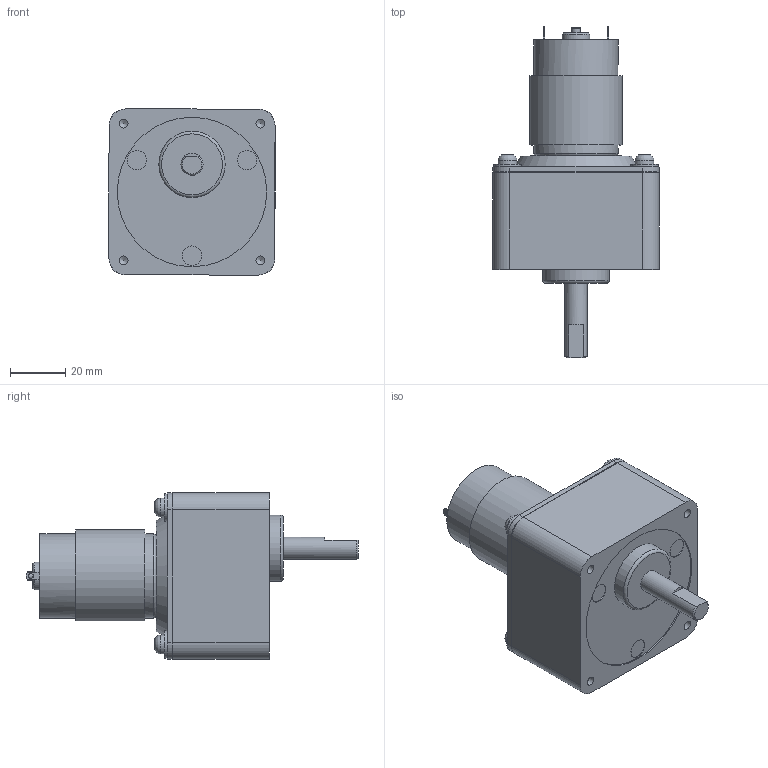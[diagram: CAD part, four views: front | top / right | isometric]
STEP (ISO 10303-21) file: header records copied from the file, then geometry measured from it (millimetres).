
FILE_DESCRIPTION(/* description */ (''),/* implementation_level */ '2;1');
FILE_NAME(/* name */ 'TP-3442#-CM-3.stp',/* time_stamp */ '2023-10-26T13:15:57+09:00',/* author */ ('user'),/* organization */ (''),/* preprocessor_version */ 'ST-DEVELOPER v19.2',/* originating_system */ 'Autodesk Inventor 2024',/* authorisation */ '');
FILE_SCHEMA (('AUTOMOTIVE_DESIGN { 1 0 10303 214 3 1 1 }'));
Length unit declared in the file: millimetre
Products named in the file (3): TP-3442#-CM-15~36-J00-24; cm_3; TP-3442#(RS-435PV)
Assembly tree (2 placements, depth 2):
  TP-3442#-CM-15~36-J00-24
    cm_3
    TP-3442#(RS-435PV)
Bounding box: 60 x 120 x 60 mm (x, y, z)
Volume: 174954 mm3; surface area: 24443.7 mm2
Topology: 2 solids, 2 shells, 182 faces, 407 edges, 266 vertices
Faces by surface type: plane 89, cylinder 69, cone 10, torus 10, bspline 4
Full cylindrical faces by diameter (mm): 1.5 x1, 2 x2, 2.459 x2, 2.5 x1, 2.6 x4, 3.17 x2, 3.242 x4, 6.8 x4, 7 x3, 8 x2, 8.3 x1, 9.8 x4, 9.9 x1, 10 x1, 24 x1, 29.4 x1, 30.4 x1, 54 x1
Entity records: 5367 total; most frequent: CARTESIAN_POINT 962, DIRECTION 952, ORIENTED_EDGE 802, EDGE_CURVE 401, AXIS2_PLACEMENT_3D 370, VERTEX_POINT 266, EDGE_LOOP 229, LINE 212
